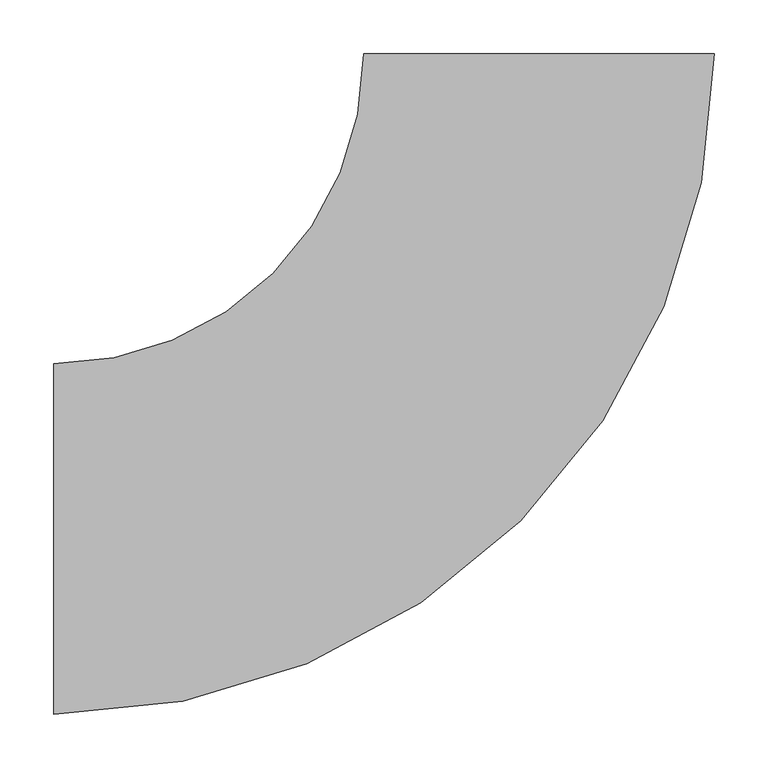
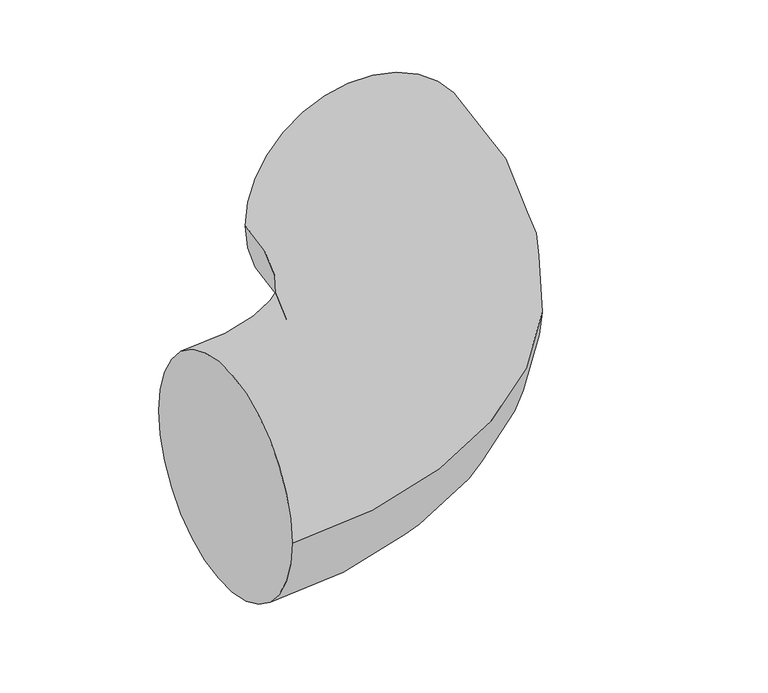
"""IFC4 building model written with IfcOpenShell, lengths in millimetres: pipe fitting geometry, ADSK_ДетальСтальнаяСварная_Отвод_ГОСТ17375-2001 : Исполнение 2."""

from ifc_helpers import new_model, si_unit, point, frame, origin, place, context, project, spatial, circle_curve, ellipse_curve, trimmed, source, transform, mapped, element, save
from ifc_brep_helpers import plane_surface, revolved_surface, advanced_brep


def pipe_fitting_0b4bf4d4(model_context):
    return source(origin(), model_context, "Body", "AdvancedBrep", [
        advanced_brep(
        [(-450.0, -162.5, 0.0), (-450.0, 162.5, 0.0), (162.5, 450.0, 0.0), (-162.5, 450.0, 0.0)],
        [
            (0, 1, circle_curve(frame((-450.0, 0.0, 0.0), z_axis=(-1.0, 0.0, 0.0), x_axis=(0.0, 1.0, 0.0)), 162.5)),
            (1, 0, circle_curve(frame((-450.0, 0.0, 0.0), z_axis=(-1.0, 0.0, 0.0), x_axis=(0.0, 1.0, 0.0)), 162.5)),
            (2, 3, circle_curve(frame((0.0, 450.0, 0.0), z_axis=(0.0, 1.0, 0.0), x_axis=(-1.0, 0.0, 0.0)), 162.5)),
            (3, 2, circle_curve(frame((0.0, 450.0, 0.0), z_axis=(0.0, 1.0, 0.0), x_axis=(-1.0, 0.0, 0.0)), 162.5)),
            (3, 1, circle_curve(frame((-450.0, 450.0, 0.0), z_axis=(0.0, 0.0, -1.0), x_axis=(0.0, -1.0, 0.0)), 287.5)),
            (0, 2, circle_curve(frame((-450.0, 450.0, 0.0), z_axis=(0.0, 0.0, 1.0), x_axis=(0.0, -1.0, 0.0)), 612.5)),
        ],
        [
            plane_surface(frame((-450.0, 0.0, 0.0), z_axis=(-1.0, 0.0, 0.0), x_axis=(0.0, 0.0, 1.0))),
            plane_surface(frame((0.0, 450.0, 0.0), z_axis=(0.0, 1.0, 0.0), x_axis=(0.0, 0.0, 1.0))),
            revolved_surface(trimmed(ellipse_curve(frame((-450.0, 0.0, 0.0), z_axis=(-1.0, 0.0, 0.0), x_axis=(0.0, 1.0, 0.0)), 162.5, 162.5), [point((-450.0, -162.5, 0.0))], [point((-450.0, 162.5, 0.0))], True, "CARTESIAN"), (-450.0, 450.0, 0.0), (0.0, 0.0, 1.0)),
            revolved_surface(trimmed(ellipse_curve(frame((-450.0, 0.0, 0.0), z_axis=(-1.0, 0.0, 0.0), x_axis=(0.0, 1.0, 0.0)), 162.5, 162.5), [point((-450.0, 162.5, 0.0))], [point((-450.0, -162.5, 0.0))], True, "CARTESIAN"), (-450.0, 450.0, 0.0), (0.0, 0.0, 1.0)),
        ],
        [
            (0, [[1, 2]]),
            (1, [[3, 4]]),
            (2, [[5, -1, 6, -4]]),
            (3, [[-6, -2, -5, -3]]),
        ],
    ),
    ])


if __name__ == "__main__":
    model = new_model("IFC4")
    model_context = context("Model", 3, world=origin())
    ifc_project = project(units=[si_unit("LENGTHUNIT", "METRE", prefix="MILLI")], contexts=[model_context])
    site = spatial("IfcSite", under=ifc_project)
    building = spatial("IfcBuilding", under=site)
    placement = place(None, origin())
    pipe_fitting_shape = pipe_fitting_0b4bf4d4(model_context)
    element("IfcPipeFitting", 1, ObjectType="ADSK_ДетальСтальнаяСварная_Отвод_ГОСТ17375-2001 : Исполнение 2", at=placement, inside=building, context=model_context, shape_type="MappedRepresentation", body=[
        mapped(pipe_fitting_shape, transform((0.0, 0.0, 0.0), x_axis=(1.0, 0.0, 0.0), y_axis=(0.0, 1.0, 0.0), z_axis=(0.0, 0.0, 1.0))),
    ])
    save(model, "model.ifc")
